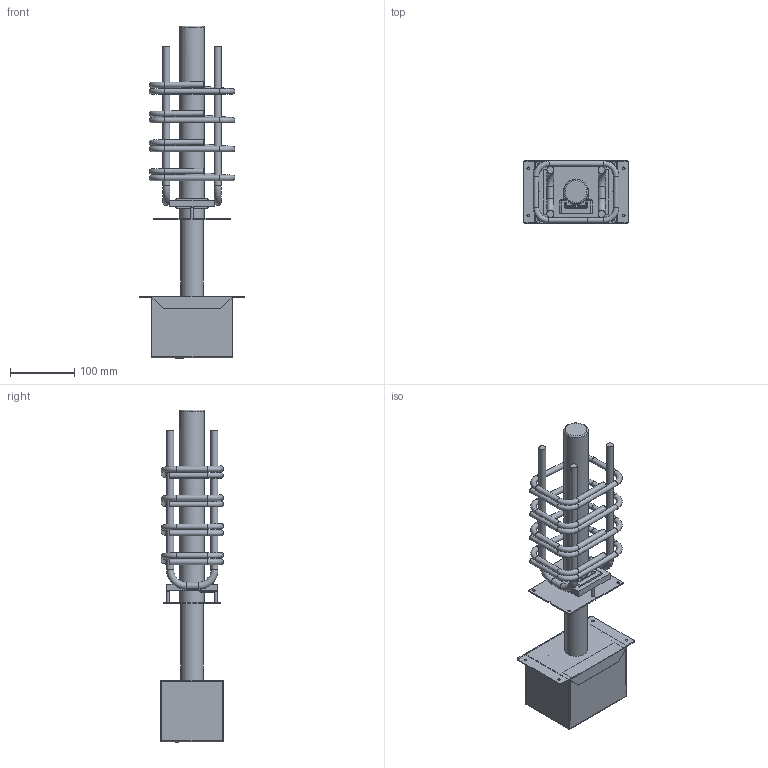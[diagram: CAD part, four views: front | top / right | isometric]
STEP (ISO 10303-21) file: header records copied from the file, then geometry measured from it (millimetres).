
FILE_DESCRIPTION(/* description */ (''),/* implementation_level */ '2;1');
FILE_NAME(/* name */ 'C:\Vault_Lokal\CAD Daten\05 Schallisolation\Fertigungszeichnungen_Standard\Sinton Q\Sinton Q1-J120_Vereinfachen_1.stp',/* time_stamp */ '2023-03-28T08:01:44+02:00',/* author */ ('Markus.niemann'),/* organization */ ('PohlCon GmbH'),/* preprocessor_version */ 'ST-DEVELOPER v18.1',/* originating_system */ 'Autodesk Inventor 2022',/* authorisation */ '');
FILE_SCHEMA (('AUTOMOTIVE_DESIGN { 1 0 10303 214 3 1 1 }'));
Length unit declared in the file: millimetre
Products named in the file (1): Sinton Q1-J120_Vereinfachen_1
Bounding box: 165 x 99 x 518.1 mm (x, y, z)
Volume: 1482045 mm3; surface area: 338150.6 mm2
Topology: 6 solids, 6 shells, 374 faces, 954 edges, 592 vertices
Faces by surface type: plane 178, cylinder 137, torus 39, sphere 16, bspline 4
Full cylindrical faces by diameter (mm): 3.9 x2, 4 x10, 8.5 x24, 11 x4, 35.2 x1, 38 x1, 38.5 x1
Entity records: 11954 total; most frequent: CARTESIAN_POINT 2127, DIRECTION 2053, ORIENTED_EDGE 1900, EDGE_CURVE 950, AXIS2_PLACEMENT_3D 748, VERTEX_POINT 592, LINE 557, VECTOR 557
